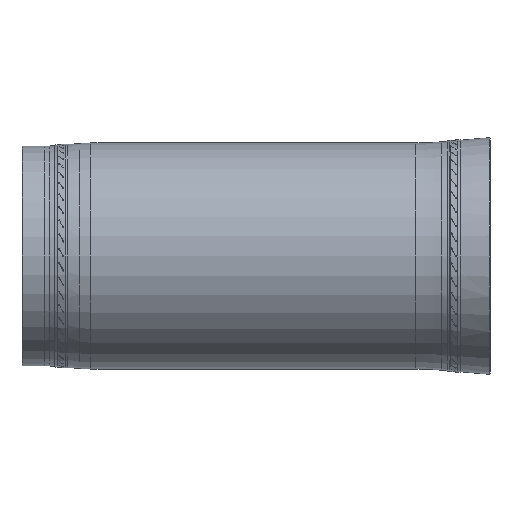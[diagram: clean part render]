
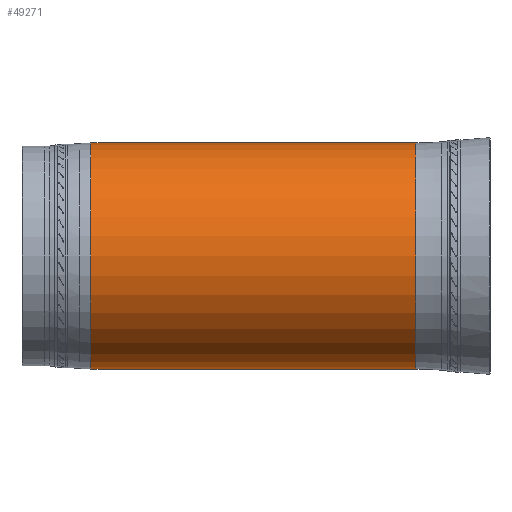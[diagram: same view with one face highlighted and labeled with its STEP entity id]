
A CAD part, left-side view. The second image highlights one B-rep face of the part: STEP entity #49271.
In plain terms, the highlighted cylindrical face has radius 267.5 mm (diameter 535 mm), a partial arc.
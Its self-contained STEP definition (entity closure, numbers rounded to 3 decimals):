
#38055=CARTESIAN_POINT('Axis2P3D Location',(0.,-383.862,0.)) ;
#38059=CARTESIAN_POINT('Vertex',(0.,-383.862,-267.5)) ;
#38061=CARTESIAN_POINT('Vertex',(0.,-383.862,267.5)) ;
#49241=CARTESIAN_POINT('Axis2P3D Location',(0.,-5.75,0.)) ;
#49246=CARTESIAN_POINT('Axis2P3D Location',(0.,384.755,0.)) ;
#49250=CARTESIAN_POINT('Vertex',(0.,384.755,-267.5)) ;
#49252=CARTESIAN_POINT('Vertex',(0.,384.755,267.5)) ;
#49255=CARTESIAN_POINT('Line Origine',(0.,0.446,-267.5)) ;
#49260=CARTESIAN_POINT('Line Origine',(0.,0.446,267.5)) ;
#38056=DIRECTION('Axis2P3D Direction',(0.,1.,0.)) ;
#49242=DIRECTION('Axis2P3D Direction',(0.,1.,0.)) ;
#49243=DIRECTION('Axis2P3D XDirection',(0.,0.,1.)) ;
#49247=DIRECTION('Axis2P3D Direction',(0.,1.,0.)) ;
#49256=DIRECTION('Vector Direction',(0.,1.,0.)) ;
#49261=DIRECTION('Vector Direction',(0.,1.,0.)) ;
#38057=AXIS2_PLACEMENT_3D('Circle Axis2P3D',#38055,#38056,$) ;
#49244=AXIS2_PLACEMENT_3D('Cylinder Axis2P3D',#49241,#49242,#49243) ;
#49248=AXIS2_PLACEMENT_3D('Circle Axis2P3D',#49246,#49247,$) ;
#49266=ORIENTED_EDGE('',*,*,#49254,.F.) ;
#49267=ORIENTED_EDGE('',*,*,#49259,.T.) ;
#49268=ORIENTED_EDGE('',*,*,#38063,.T.) ;
#49269=ORIENTED_EDGE('',*,*,#49264,.F.) ;
#49257=VECTOR('Line Direction',#49256,1.) ;
#49262=VECTOR('Line Direction',#49261,1.) ;
#49271=ADVANCED_FACE('Corps principal',(#49270),#49245,.T.) ;
#38058=CIRCLE('generated circle',#38057,267.5) ;
#49249=CIRCLE('generated circle',#49248,267.5) ;
#49245=CYLINDRICAL_SURFACE('generated cylinder',#49244,267.5) ;
#38063=EDGE_CURVE('',#38060,#38062,#38058,.T.) ;
#49254=EDGE_CURVE('',#49251,#49253,#49249,.T.) ;
#49259=EDGE_CURVE('',#49251,#38060,#49258,.F.) ;
#49264=EDGE_CURVE('',#49253,#38062,#49263,.F.) ;
#49265=EDGE_LOOP('',(#49266,#49267,#49268,#49269)) ;
#49270=FACE_OUTER_BOUND('',#49265,.T.) ;
#49258=LINE('Line',#49255,#49257) ;
#49263=LINE('Line',#49260,#49262) ;
#38060=VERTEX_POINT('',#38059) ;
#38062=VERTEX_POINT('',#38061) ;
#49251=VERTEX_POINT('',#49250) ;
#49253=VERTEX_POINT('',#49252) ;
